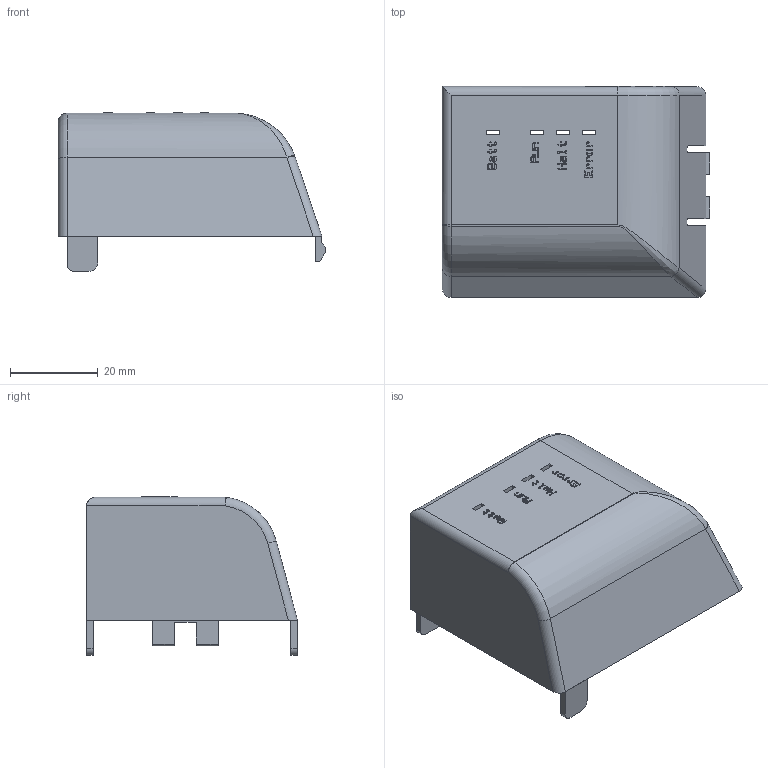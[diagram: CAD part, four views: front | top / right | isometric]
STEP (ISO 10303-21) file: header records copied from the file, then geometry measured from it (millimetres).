
FILE_DESCRIPTION(('CAx-IF Rec.Pracs.---Model Styling and Organization---1.5---2016-08-15','CAx-IF Rec.Pracs.---Geometric and Assembly Validation Properties---4.4---2016-08-17','CAx-IF Rec.Pracs.---User Defined Attributes---1.5---2016-08-15','CAx-IF Rec.Pracs.---External References---2.1---2005-01-19'),'2;1');
FILE_NAME('SBC_STP_PLC_410474930_Cover-PCD3-M5-M6_2021-09-03.stp','2021-09-03T16:00:29',('Unspecified'),('Unspecified'),'CAD Exchanger 3.9.1 (cadexchanger.com)','Unspecified','');
FILE_SCHEMA(('AUTOMOTIVE_DESIGN { 1 0 10303 214 1 1 1 1 }'));
Length unit declared in the file: millimetre
Products named in the file (8): Lasche1; Lasche2; Schnapper; Cut; Text_on_top_-_Run; Text_on_top_-_Batt; Text_on_top_-_Halt; Text_on_top_-_Error
Bounding box: 60.9 x 48 x 36.1 mm (x, y, z)
Volume: 10560.9 mm3; surface area: 14804.4 mm2
Topology: 20 solids, 20 shells, 521 faces, 1425 edges, 942 vertices
Faces by surface type: extrusion 266, plane 218, cylinder 27, torus 4, bspline 4, sphere 2
Entity records: 18056 total; most frequent: CARTESIAN_POINT 5174, ORIENTED_EDGE 2846, DIRECTION 1701, EDGE_CURVE 1423, VECTOR 1093, VERTEX_POINT 942, LINE 827, B_SPLINE_CURVE_WITH_KNOTS 802
